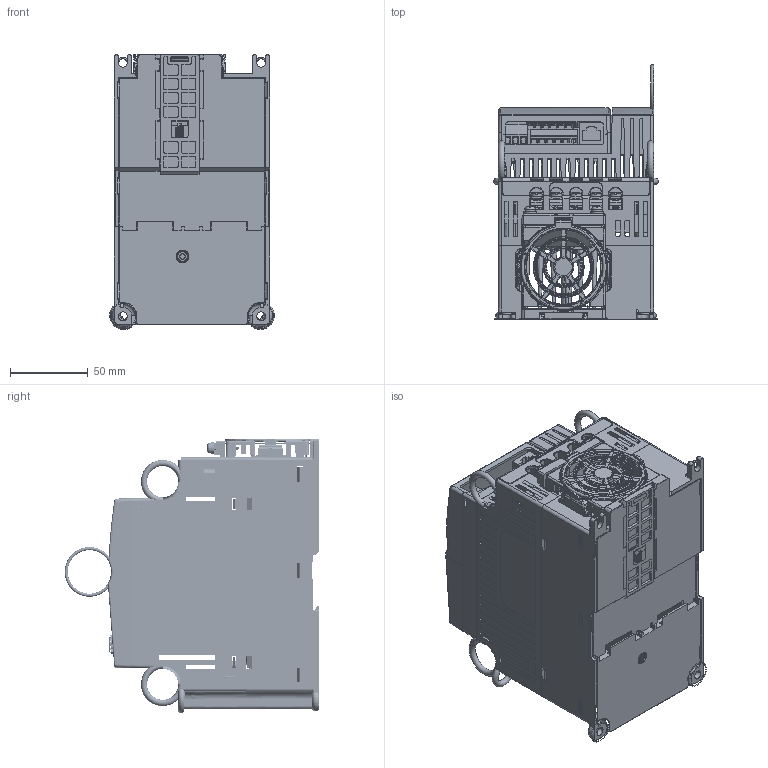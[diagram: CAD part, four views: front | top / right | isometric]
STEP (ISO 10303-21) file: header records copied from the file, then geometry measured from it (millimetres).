
FILE_DESCRIPTION((''),'2;1');
FILE_NAME('VFD-EL-B-PD-3D00','2009-11-13T',('STARCK.SUN'),(''),'PRO/ENGINEER BY PARAMETRIC TECHNOLOGY CORPORATION, 2007390','PRO/ENGINEER BY PARAMETRIC TECHNOLOGY CORPORATION, 2007390','');
FILE_SCHEMA(('CONFIG_CONTROL_DESIGN'));
Products named in the file (1): VFD-EL-B-PD-3D00
Bounding box: 105.96 x 164 x 176.99 mm (x, y, z)
Surface area: 319663.5 mm2 (no closed solid volume)
Topology: 0 solids, 0 shells, 1739 faces, 15429 edges, 15306 vertices
Faces by surface type: bspline 1597, torus 137, sphere 5
Entity records: 289556 total; most frequent: CARTESIAN_POINT 140341, DIRECTION 25053, TRIMMED_CURVE 22293, VECTOR 19817, LINE 19817, DEFINITIONAL_REPRESENTATION 15183, PCURVE 15183, COMPOSITE_CURVE_SEGMENT 15183
